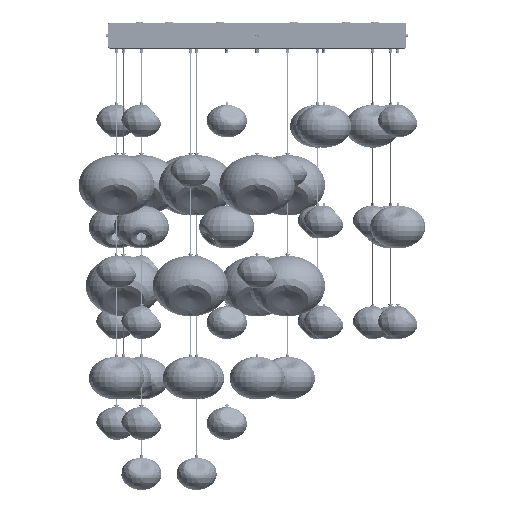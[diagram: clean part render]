
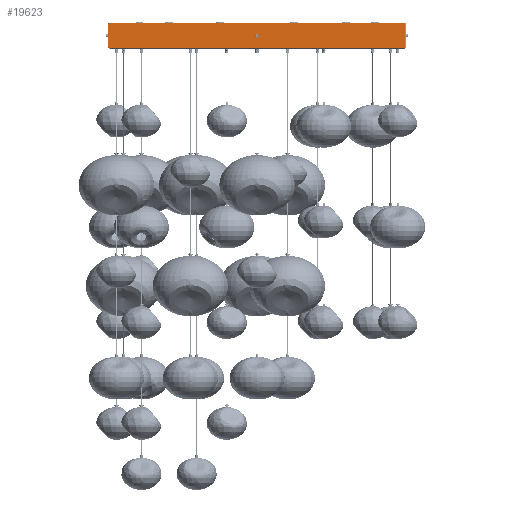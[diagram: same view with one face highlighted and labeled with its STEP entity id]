
A CAD part, front view. The second image highlights one B-rep face of the part: STEP entity #19623.
In plain terms, the highlighted planar face has unit normal (0, -1, 0) as drawn and (-1, 0, 0) by its records, which use the part's own axes.
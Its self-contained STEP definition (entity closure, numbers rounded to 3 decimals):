
#16613=FACE_BOUND('',#26583,.T.);
#19623=ADVANCED_FACE('',(#22965,#16613),#70413,.T.);
#22965=FACE_OUTER_BOUND('',#26582,.T.);
#26582=EDGE_LOOP('',(#42207,#42208,#42209,#42210,#42211,#42212));
#26583=EDGE_LOOP('',(#42213));
#42207=ORIENTED_EDGE('',*,*,#52682,.F.);
#42208=ORIENTED_EDGE('',*,*,#52683,.F.);
#42209=ORIENTED_EDGE('',*,*,#52684,.F.);
#42210=ORIENTED_EDGE('',*,*,#52701,.F.);
#42211=ORIENTED_EDGE('',*,*,#52679,.F.);
#42212=ORIENTED_EDGE('',*,*,#52675,.F.);
#42213=ORIENTED_EDGE('',*,*,#52841,.F.);
#52675=EDGE_CURVE('',#67999,#68000,#62392,.T.);
#52679=EDGE_CURVE('',#68000,#68003,#59134,.T.);
#52682=EDGE_CURVE('',#68005,#67999,#59137,.T.);
#52683=EDGE_CURVE('',#68006,#68005,#59138,.T.);
#52684=EDGE_CURVE('',#68007,#68006,#59139,.T.);
#52701=EDGE_CURVE('',#68003,#68007,#62399,.T.);
#52841=EDGE_CURVE('',#68008,#68008,#62450,.T.);
#59134=B_SPLINE_CURVE_WITH_KNOTS('',1,(#372291,#372292),.UNSPECIFIED.,.F.,
 .F.,(2,2),(0.,46.),.UNSPECIFIED.);
#59137=B_SPLINE_CURVE_WITH_KNOTS('',1,(#372297,#372298),.UNSPECIFIED.,.F.,
 .F.,(2,2),(-586.5,0.),.UNSPECIFIED.);
#59138=B_SPLINE_CURVE_WITH_KNOTS('',1,(#372299,#372300),.UNSPECIFIED.,.F.,
 .F.,(2,2),(-49.,0.),.UNSPECIFIED.);
#59139=B_SPLINE_CURVE_WITH_KNOTS('',1,(#372301,#372302),.UNSPECIFIED.,.F.,
 .F.,(2,2),(-586.5,0.),.UNSPECIFIED.);
#62392=(
BOUNDED_CURVE()
B_SPLINE_CURVE(2,(#372281,#372282,#372283),.UNSPECIFIED.,.F.,.F.)
B_SPLINE_CURVE_WITH_KNOTS((3,3),(0.,2.356),.UNSPECIFIED.)
CURVE()
GEOMETRIC_REPRESENTATION_ITEM()
RATIONAL_B_SPLINE_CURVE((1.,0.707,1.))
REPRESENTATION_ITEM('')
);
#62399=(
BOUNDED_CURVE()
B_SPLINE_CURVE(2,(#372340,#372341,#372342),.UNSPECIFIED.,.F.,.F.)
B_SPLINE_CURVE_WITH_KNOTS((3,3),(0.,2.356),.UNSPECIFIED.)
CURVE()
GEOMETRIC_REPRESENTATION_ITEM()
RATIONAL_B_SPLINE_CURVE((1.,0.707,1.))
REPRESENTATION_ITEM('')
);
#62450=(
BOUNDED_CURVE()
B_SPLINE_CURVE(2,(#372683,#372684,#372685,#372686,#372687,#372688,#372689,
#372690,#372691),.UNSPECIFIED.,.T.,.F.)
B_SPLINE_CURVE_WITH_KNOTS((3,2,2,2,3),(0.,3.927,7.854,
11.781,15.708),.UNSPECIFIED.)
CURVE()
GEOMETRIC_REPRESENTATION_ITEM()
RATIONAL_B_SPLINE_CURVE((1.,0.707,1.,0.707,1.,0.707,
1.,0.707,1.))
REPRESENTATION_ITEM('')
);
#67999=VERTEX_POINT('',#372036);
#68000=VERTEX_POINT('',#372037);
#68003=VERTEX_POINT('',#372040);
#68005=VERTEX_POINT('',#372042);
#68006=VERTEX_POINT('',#372043);
#68007=VERTEX_POINT('',#372044);
#68008=VERTEX_POINT('',#372045);
#70413=PLANE('',#78936);
#78936=AXIS2_PLACEMENT_3D('',#371773,#82142,$);
#82142=DIRECTION('',(-1.,0.,0.));
#371773=CARTESIAN_POINT('',(-295.,-28.52,351.92));
#372036=CARTESIAN_POINT('',(-295.,-23.5,-293.5));
#372037=CARTESIAN_POINT('',(-295.,-22.,-295.));
#372040=CARTESIAN_POINT('',(-295.,24.,-295.));
#372042=CARTESIAN_POINT('',(-295.,-23.5,293.));
#372043=CARTESIAN_POINT('',(-295.,25.5,293.));
#372044=CARTESIAN_POINT('',(-295.,25.5,-293.5));
#372045=CARTESIAN_POINT('',(-295.,0.5,2.5));
#372281=CARTESIAN_POINT('',(-295.,-23.5,-293.5));
#372282=CARTESIAN_POINT('',(-295.,-23.5,-295.));
#372283=CARTESIAN_POINT('',(-295.,-22.,-295.));
#372291=CARTESIAN_POINT('',(-295.,-22.,-295.));
#372292=CARTESIAN_POINT('',(-295.,24.,-295.));
#372297=CARTESIAN_POINT('',(-295.,-23.5,293.));
#372298=CARTESIAN_POINT('',(-295.,-23.5,-293.5));
#372299=CARTESIAN_POINT('',(-295.,25.5,293.));
#372300=CARTESIAN_POINT('',(-295.,-23.5,293.));
#372301=CARTESIAN_POINT('',(-295.,25.5,-293.5));
#372302=CARTESIAN_POINT('',(-295.,25.5,293.));
#372340=CARTESIAN_POINT('',(-295.,24.,-295.));
#372341=CARTESIAN_POINT('',(-295.,25.5,-295.));
#372342=CARTESIAN_POINT('',(-295.,25.5,-293.5));
#372683=CARTESIAN_POINT('',(-295.,0.5,2.5));
#372684=CARTESIAN_POINT('',(-295.,3.,2.5));
#372685=CARTESIAN_POINT('',(-295.,3.,0.));
#372686=CARTESIAN_POINT('',(-295.,3.,-2.5));
#372687=CARTESIAN_POINT('',(-295.,0.5,-2.5));
#372688=CARTESIAN_POINT('',(-295.,-2.,-2.5));
#372689=CARTESIAN_POINT('',(-295.,-2.,0.));
#372690=CARTESIAN_POINT('',(-295.,-2.,2.5));
#372691=CARTESIAN_POINT('',(-295.,0.5,2.5));
